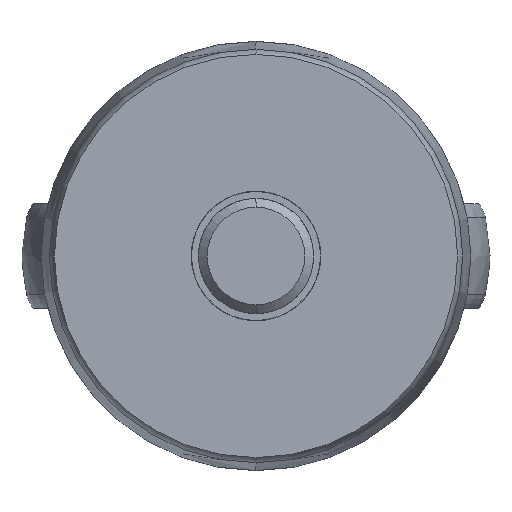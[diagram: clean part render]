
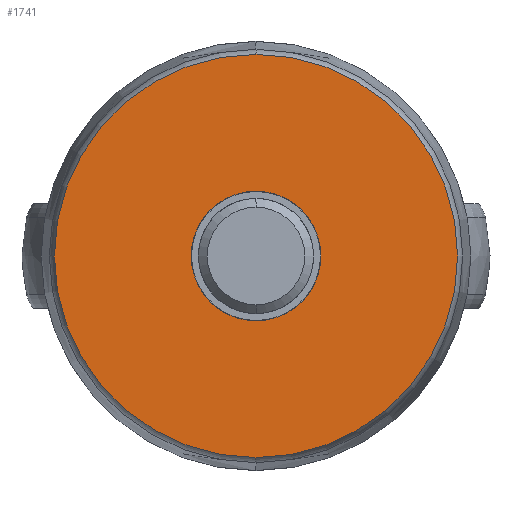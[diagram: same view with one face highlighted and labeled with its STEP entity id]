
A CAD part, front view. The second image highlights one B-rep face of the part: STEP entity #1741.
In plain terms, the highlighted planar face has unit normal (0, -1, 0).
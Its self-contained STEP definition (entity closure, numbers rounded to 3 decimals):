
#1523=CARTESIAN_POINT('Vertex',(0.,0.,28.)) ;
#1530=CARTESIAN_POINT('Vertex',(0.,0.,-28.)) ;
#1533=CARTESIAN_POINT('Axis2P3D Location',(0.,0.,0.)) ;
#1537=CARTESIAN_POINT('Vertex',(-28.,0.,0.)) ;
#1540=CARTESIAN_POINT('Axis2P3D Location',(0.,0.,0.)) ;
#1559=CARTESIAN_POINT('Axis2P3D Location',(0.,0.,0.)) ;
#1563=CARTESIAN_POINT('Vertex',(28.,0.,0.)) ;
#1566=CARTESIAN_POINT('Axis2P3D Location',(0.,0.,0.)) ;
#1642=CARTESIAN_POINT('Axis2P3D Location',(28.,0.,0.)) ;
#1654=CARTESIAN_POINT('Control Point',(0.,0.,-9.)) ;
#1655=CARTESIAN_POINT('Control Point',(0.882,0.,-9.)) ;
#1656=CARTESIAN_POINT('Control Point',(1.764,0.,-8.892)) ;
#1657=CARTESIAN_POINT('Control Point',(2.628,0.,-8.676)) ;
#1658=CARTESIAN_POINT('Control Point',(4.286,0.,-8.037)) ;
#1659=CARTESIAN_POINT('Control Point',(5.74,0.,-7.016)) ;
#1660=CARTESIAN_POINT('Control Point',(6.401,0.,-6.419)) ;
#1661=CARTESIAN_POINT('Control Point',(7.369,0.,-5.299)) ;
#1662=CARTESIAN_POINT('Control Point',(8.089,0.,-4.012)) ;
#1663=CARTESIAN_POINT('Control Point',(8.334,0.,-3.474)) ;
#1664=CARTESIAN_POINT('Control Point',(8.633,0.,-2.642)) ;
#1665=CARTESIAN_POINT('Control Point',(8.829,0.,-1.782)) ;
#1666=CARTESIAN_POINT('Control Point',(8.883,0.,-1.492)) ;
#1667=CARTESIAN_POINT('Control Point',(8.95,0.,-1.021)) ;
#1668=CARTESIAN_POINT('Control Point',(8.986,0.,-0.546)) ;
#1669=CARTESIAN_POINT('Control Point',(8.995,0.,-0.364)) ;
#1670=CARTESIAN_POINT('Control Point',(9.,0.,-0.182)) ;
#1671=CARTESIAN_POINT('Control Point',(9.,0.,0.)) ;
#1672=CARTESIAN_POINT('Vertex',(0.,0.,-9.)) ;
#1674=CARTESIAN_POINT('Vertex',(9.,0.,0.)) ;
#1678=CARTESIAN_POINT('Control Point',(-9.,0.,0.)) ;
#1679=CARTESIAN_POINT('Control Point',(-9.,0.,-0.882)) ;
#1680=CARTESIAN_POINT('Control Point',(-8.892,0.,-1.764)) ;
#1681=CARTESIAN_POINT('Control Point',(-8.676,0.,-2.628)) ;
#1682=CARTESIAN_POINT('Control Point',(-8.037,0.,-4.286)) ;
#1683=CARTESIAN_POINT('Control Point',(-7.016,0.,-5.74)) ;
#1684=CARTESIAN_POINT('Control Point',(-6.419,0.,-6.401)) ;
#1685=CARTESIAN_POINT('Control Point',(-5.075,0.,-7.563)) ;
#1686=CARTESIAN_POINT('Control Point',(-3.49,0.,-8.366)) ;
#1687=CARTESIAN_POINT('Control Point',(-2.652,0.,-8.669)) ;
#1688=CARTESIAN_POINT('Control Point',(-1.607,0.,-8.906)) ;
#1689=CARTESIAN_POINT('Control Point',(-0.546,0.,-8.986)) ;
#1690=CARTESIAN_POINT('Control Point',(-0.364,0.,-8.995)) ;
#1691=CARTESIAN_POINT('Control Point',(-0.182,0.,-9.)) ;
#1692=CARTESIAN_POINT('Control Point',(0.,0.,-9.)) ;
#1693=CARTESIAN_POINT('Vertex',(-9.,0.,0.)) ;
#1697=CARTESIAN_POINT('Control Point',(0.,0.,9.)) ;
#1698=CARTESIAN_POINT('Control Point',(-0.882,0.,9.)) ;
#1699=CARTESIAN_POINT('Control Point',(-1.764,0.,8.892)) ;
#1700=CARTESIAN_POINT('Control Point',(-2.628,0.,8.676)) ;
#1701=CARTESIAN_POINT('Control Point',(-4.286,0.,8.037)) ;
#1702=CARTESIAN_POINT('Control Point',(-5.74,0.,7.016)) ;
#1703=CARTESIAN_POINT('Control Point',(-6.401,0.,6.419)) ;
#1704=CARTESIAN_POINT('Control Point',(-7.369,0.,5.299)) ;
#1705=CARTESIAN_POINT('Control Point',(-8.089,0.,4.012)) ;
#1706=CARTESIAN_POINT('Control Point',(-8.334,0.,3.474)) ;
#1707=CARTESIAN_POINT('Control Point',(-8.633,0.,2.642)) ;
#1708=CARTESIAN_POINT('Control Point',(-8.829,0.,1.782)) ;
#1709=CARTESIAN_POINT('Control Point',(-8.883,0.,1.492)) ;
#1710=CARTESIAN_POINT('Control Point',(-8.95,0.,1.021)) ;
#1711=CARTESIAN_POINT('Control Point',(-8.986,0.,0.546)) ;
#1712=CARTESIAN_POINT('Control Point',(-8.995,0.,0.364)) ;
#1713=CARTESIAN_POINT('Control Point',(-9.,0.,0.182)) ;
#1714=CARTESIAN_POINT('Control Point',(-9.,0.,0.)) ;
#1715=CARTESIAN_POINT('Vertex',(0.,0.,9.)) ;
#1719=CARTESIAN_POINT('Control Point',(9.,0.,0.)) ;
#1720=CARTESIAN_POINT('Control Point',(9.,0.,0.882)) ;
#1721=CARTESIAN_POINT('Control Point',(8.892,0.,1.764)) ;
#1722=CARTESIAN_POINT('Control Point',(8.676,0.,2.628)) ;
#1723=CARTESIAN_POINT('Control Point',(8.037,0.,4.286)) ;
#1724=CARTESIAN_POINT('Control Point',(7.016,0.,5.74)) ;
#1725=CARTESIAN_POINT('Control Point',(6.419,0.,6.401)) ;
#1726=CARTESIAN_POINT('Control Point',(5.075,0.,7.563)) ;
#1727=CARTESIAN_POINT('Control Point',(3.49,0.,8.366)) ;
#1728=CARTESIAN_POINT('Control Point',(2.652,0.,8.669)) ;
#1729=CARTESIAN_POINT('Control Point',(1.607,0.,8.906)) ;
#1730=CARTESIAN_POINT('Control Point',(0.546,0.,8.986)) ;
#1731=CARTESIAN_POINT('Control Point',(0.364,0.,8.995)) ;
#1732=CARTESIAN_POINT('Control Point',(0.182,0.,9.)) ;
#1733=CARTESIAN_POINT('Control Point',(0.,0.,9.)) ;
#1534=DIRECTION('Axis2P3D Direction',(0.,1.,0.)) ;
#1541=DIRECTION('Axis2P3D Direction',(0.,1.,0.)) ;
#1560=DIRECTION('Axis2P3D Direction',(0.,1.,0.)) ;
#1567=DIRECTION('Axis2P3D Direction',(0.,1.,0.)) ;
#1643=DIRECTION('Axis2P3D Direction',(0.,1.,0.)) ;
#1644=DIRECTION('Axis2P3D XDirection',(0.,-0.,1.)) ;
#1535=AXIS2_PLACEMENT_3D('Circle Axis2P3D',#1533,#1534,$) ;
#1542=AXIS2_PLACEMENT_3D('Circle Axis2P3D',#1540,#1541,$) ;
#1561=AXIS2_PLACEMENT_3D('Circle Axis2P3D',#1559,#1560,$) ;
#1568=AXIS2_PLACEMENT_3D('Circle Axis2P3D',#1566,#1567,$) ;
#1645=AXIS2_PLACEMENT_3D('Plane Axis2P3D',#1642,#1643,#1644) ;
#1648=ORIENTED_EDGE('',*,*,#1565,.T.) ;
#1649=ORIENTED_EDGE('',*,*,#1544,.T.) ;
#1650=ORIENTED_EDGE('',*,*,#1539,.T.) ;
#1651=ORIENTED_EDGE('',*,*,#1570,.T.) ;
#1736=ORIENTED_EDGE('',*,*,#1676,.F.) ;
#1737=ORIENTED_EDGE('',*,*,#1695,.F.) ;
#1738=ORIENTED_EDGE('',*,*,#1717,.F.) ;
#1739=ORIENTED_EDGE('',*,*,#1734,.F.) ;
#1740=FACE_BOUND('',#1735,.T.) ;
#1741=ADVANCED_FACE('_C817XC16',(#1652,#1740),#1646,.F.) ;
#1653=B_SPLINE_CURVE_WITH_KNOTS('',5,(#1654,#1655,#1656,#1657,#1658,#1659,#1660,#1661,#1662,#1663,#1664,#1665,#1666,#1667,#1668,#1669,#1670,#1671),.UNSPECIFIED.,.F.,.U.,(6,3,3,3,3,6),(0.,6.248,12.496,16.662,18.742,20.032),.UNSPECIFIED.) ;
#1677=B_SPLINE_CURVE_WITH_KNOTS('',5,(#1678,#1679,#1680,#1681,#1682,#1683,#1684,#1685,#1686,#1687,#1688,#1689,#1690,#1691,#1692),.UNSPECIFIED.,.F.,.U.,(6,3,3,3,6),(0.,6.25,12.5,18.75,20.039),.UNSPECIFIED.) ;
#1696=B_SPLINE_CURVE_WITH_KNOTS('',5,(#1697,#1698,#1699,#1700,#1701,#1702,#1703,#1704,#1705,#1706,#1707,#1708,#1709,#1710,#1711,#1712,#1713,#1714),.UNSPECIFIED.,.F.,.U.,(6,3,3,3,3,6),(0.,6.248,12.496,16.662,18.742,20.032),.UNSPECIFIED.) ;
#1718=B_SPLINE_CURVE_WITH_KNOTS('',5,(#1719,#1720,#1721,#1722,#1723,#1724,#1725,#1726,#1727,#1728,#1729,#1730,#1731,#1732,#1733),.UNSPECIFIED.,.F.,.U.,(6,3,3,3,6),(0.,6.25,12.5,18.75,20.039),.UNSPECIFIED.) ;
#1536=CIRCLE('generated circle',#1535,28.) ;
#1543=CIRCLE('generated circle',#1542,28.) ;
#1562=CIRCLE('generated circle',#1561,28.) ;
#1569=CIRCLE('generated circle',#1568,28.) ;
#1539=EDGE_CURVE('',#1538,#1531,#1536,.F.) ;
#1544=EDGE_CURVE('',#1524,#1538,#1543,.F.) ;
#1565=EDGE_CURVE('',#1564,#1524,#1562,.F.) ;
#1570=EDGE_CURVE('',#1531,#1564,#1569,.F.) ;
#1676=EDGE_CURVE('',#1673,#1675,#1653,.T.) ;
#1695=EDGE_CURVE('',#1694,#1673,#1677,.T.) ;
#1717=EDGE_CURVE('',#1716,#1694,#1696,.T.) ;
#1734=EDGE_CURVE('',#1675,#1716,#1718,.T.) ;
#1647=EDGE_LOOP('',(#1648,#1649,#1650,#1651)) ;
#1735=EDGE_LOOP('',(#1736,#1737,#1738,#1739)) ;
#1652=FACE_OUTER_BOUND('',#1647,.T.) ;
#1646=PLANE('Plane',#1645) ;
#1524=VERTEX_POINT('',#1523) ;
#1531=VERTEX_POINT('',#1530) ;
#1538=VERTEX_POINT('',#1537) ;
#1564=VERTEX_POINT('',#1563) ;
#1673=VERTEX_POINT('',#1672) ;
#1675=VERTEX_POINT('',#1674) ;
#1694=VERTEX_POINT('',#1693) ;
#1716=VERTEX_POINT('',#1715) ;
